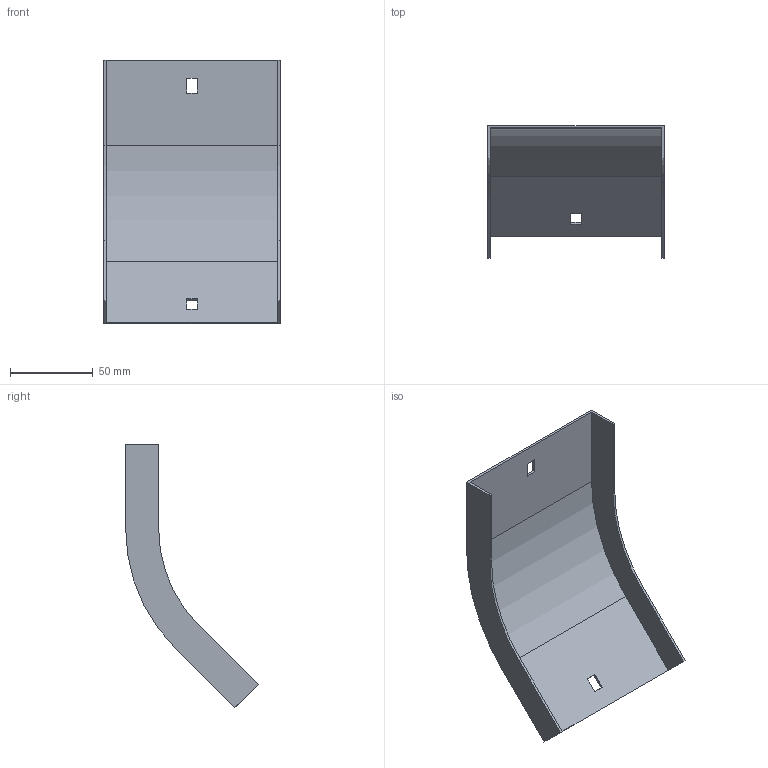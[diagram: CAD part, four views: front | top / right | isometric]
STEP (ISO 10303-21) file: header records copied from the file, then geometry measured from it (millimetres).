
FILE_DESCRIPTION (( 'STEP AP214' ), '1' );
FILE_NAME ('34G1B100.step', '2025-02-21T12:42:46', ( '' ), ( '' ), 'SwSTEP 2.0', 'SolidWorks 2023', '' );
FILE_SCHEMA (( 'AUTOMOTIVE_DESIGN' ));
Length unit declared in the file: millimetre
Products named in the file (1): 34G1B100
Bounding box: 107 x 80.32 x 159.76 mm (x, y, z)
Volume: 38745.7 mm3; surface area: 52689 mm2
Topology: 1 solids, 1 shells, 26 faces, 72 edges, 48 vertices
Faces by surface type: plane 22, cylinder 4
Entity records: 855 total; most frequent: CARTESIAN_POINT 147, ORIENTED_EDGE 144, DIRECTION 134, EDGE_CURVE 72, VECTOR 64, LINE 64, VERTEX_POINT 48, AXIS2_PLACEMENT_3D 35
